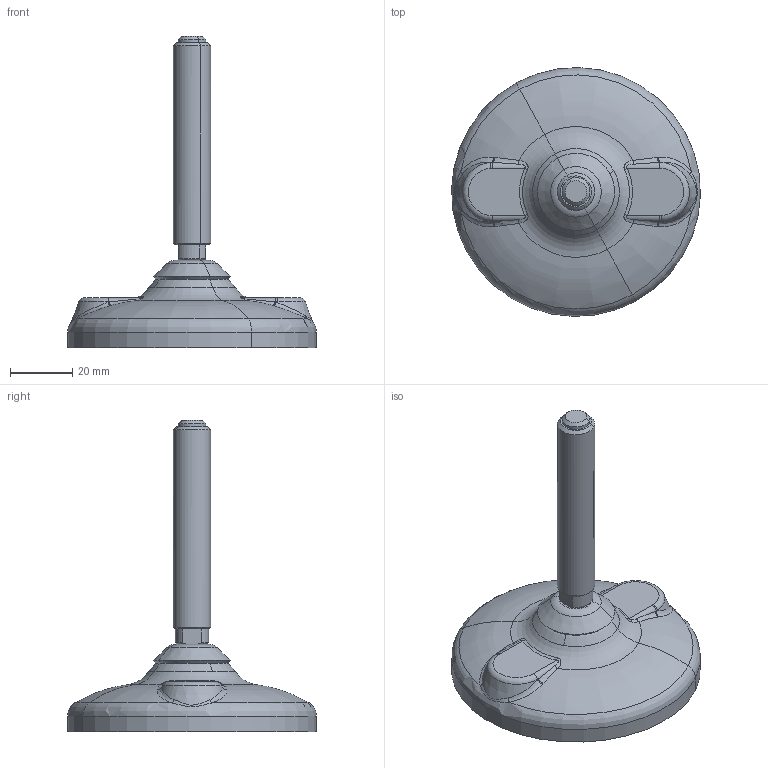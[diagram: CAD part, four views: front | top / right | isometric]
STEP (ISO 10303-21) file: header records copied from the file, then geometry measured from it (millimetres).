
FILE_DESCRIPTION(('CATIA V5 STEP Exchange'),'2;1');
FILE_NAME('X:\CODICI MOVEX\3D per clienti\3D definitivi\Part 900\P91001_01.stp','2016-07-19T13:42:49+00:00',('none'),('none'),'Version 5-6 Release 2012','CATIA V5 STEP AP203','none');
FILE_SCHEMA(('CONFIG_CONTROL_DESIGN'));
Length unit declared in the file: millimetre
Products named in the file (1): P91001_01
Assembly tree (3 placements, depth 2):
  P91001_01
    #58
    #1109
    #1504
Bounding box: 79.98 x 79.98 x 100.02 mm (x, y, z)
Volume: 54093.9 mm3; surface area: 32080.6 mm2
Topology: 3 solids, 4 shells, 858 faces, 2309 edges, 1447 vertices
Faces by surface type: plane 491, bspline 146, torus 71, cylinder 46, cone 41, sphere 39, revolution 24
Entity records: 35576 total; most frequent: CARTESIAN_POINT 17347, ORIENTED_EDGE 4572, DIRECTION 2373, EDGE_CURVE 2286, VERTEX_POINT 1447, B_SPLINE_CURVE_WITH_KNOTS 1185, AXIS2_PLACEMENT_3D 937, EDGE_LOOP 873
